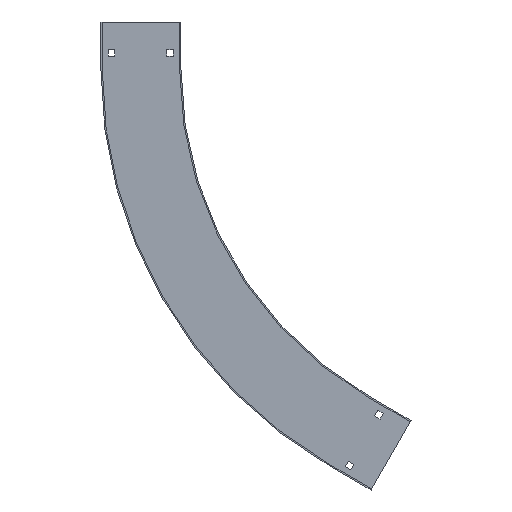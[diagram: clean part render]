
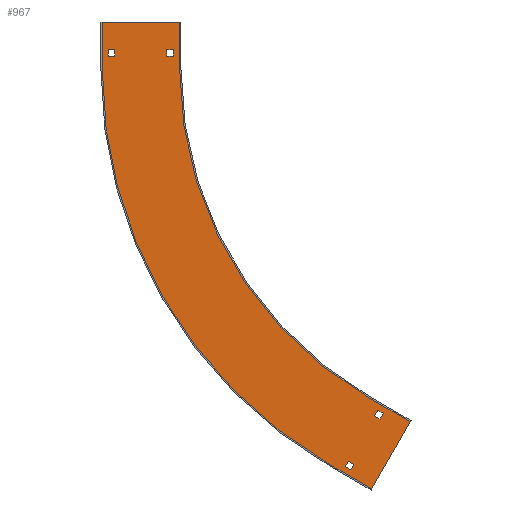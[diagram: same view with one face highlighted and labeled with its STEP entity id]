
A CAD part, left-side view. The second image highlights one B-rep face of the part: STEP entity #967.
In plain terms, the highlighted planar face has unit normal (-1, 0, 0) as drawn and (1, 0, 0) by its records, which use the part's own axes.
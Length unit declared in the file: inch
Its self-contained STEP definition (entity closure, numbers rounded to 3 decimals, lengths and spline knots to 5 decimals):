
#9=DIRECTION('',(0.,1.,0.));
#10=VECTOR('',#9,4.91);
#11=CARTESIAN_POINT('',(0.08,0.085,0.));
#12=LINE('',#11,#10);
#194=DIRECTION('',(0.,0.,1.));
#195=VECTOR('',#194,3.);
#196=CARTESIAN_POINT('',(0.08,4.995,0.));
#197=LINE('',#196,#195);
#198=DIRECTION('',(0.,0.,1.));
#199=VECTOR('',#198,3.);
#200=CARTESIAN_POINT('',(0.08,0.085,0.));
#201=LINE('',#200,#199);
#202=CARTESIAN_POINT('',(0.08,-24.,3.));
#203=DIRECTION('',(1.,0.,0.));
#204=DIRECTION('',(0.,1.,0.));
#205=AXIS2_PLACEMENT_3D('',#202,#203,#204);
#207=DIRECTION('',(0.,-0.866,0.5));
#208=VECTOR('',#207,3.);
#209=CARTESIAN_POINT('',(0.08,-11.9575,23.85822));
#210=LINE('',#209,#208);
#211=DIRECTION('',(0.,0.,1.));
#212=VECTOR('',#211,0.41);
#213=CARTESIAN_POINT('',(0.08,4.622,1.755));
#214=LINE('',#213,#212);
#215=DIRECTION('',(0.,-1.,0.));
#216=VECTOR('',#215,0.41);
#217=CARTESIAN_POINT('',(0.08,4.622,2.165));
#218=LINE('',#217,#216);
#219=DIRECTION('',(0.,0.,-1.));
#220=VECTOR('',#219,0.41);
#221=CARTESIAN_POINT('',(0.08,4.212,2.165));
#222=LINE('',#221,#220);
#223=DIRECTION('',(0.,1.,0.));
#224=VECTOR('',#223,0.41);
#225=CARTESIAN_POINT('',(0.08,4.212,1.755));
#226=LINE('',#225,#224);
#227=DIRECTION('',(0.,0.,1.));
#228=VECTOR('',#227,0.41);
#229=CARTESIAN_POINT('',(0.08,0.897,1.755));
#230=LINE('',#229,#228);
#231=DIRECTION('',(0.,-1.,0.));
#232=VECTOR('',#231,0.41);
#233=CARTESIAN_POINT('',(0.08,0.897,2.165));
#234=LINE('',#233,#232);
#235=DIRECTION('',(0.,0.,-1.));
#236=VECTOR('',#235,0.41);
#237=CARTESIAN_POINT('',(0.08,0.487,2.165));
#238=LINE('',#237,#236);
#239=DIRECTION('',(0.,1.,0.));
#240=VECTOR('',#239,0.41);
#241=CARTESIAN_POINT('',(0.08,0.487,1.755));
#242=LINE('',#241,#240);
#243=DIRECTION('',(0.,-0.5,-0.866));
#244=VECTOR('',#243,0.41);
#245=CARTESIAN_POINT('',(0.08,-10.7672,28.40988));
#246=LINE('',#245,#244);
#247=DIRECTION('',(0.,0.866,-0.5));
#248=VECTOR('',#247,0.41);
#249=CARTESIAN_POINT('',(0.08,-10.9722,28.05481));
#250=LINE('',#249,#248);
#251=DIRECTION('',(0.,0.5,0.866));
#252=VECTOR('',#251,0.41);
#253=CARTESIAN_POINT('',(0.08,-10.61713,27.84981));
#254=LINE('',#253,#252);
#255=DIRECTION('',(0.,-0.866,0.5));
#256=VECTOR('',#255,0.41);
#257=CARTESIAN_POINT('',(0.08,-10.41213,28.20488));
#258=LINE('',#257,#256);
#259=DIRECTION('',(0.,-0.5,-0.866));
#260=VECTOR('',#259,0.41);
#261=CARTESIAN_POINT('',(0.08,-12.6297,25.18393));
#262=LINE('',#261,#260);
#263=DIRECTION('',(0.,0.866,-0.5));
#264=VECTOR('',#263,0.41);
#265=CARTESIAN_POINT('',(0.08,-12.8347,24.82886));
#266=LINE('',#265,#264);
#267=DIRECTION('',(0.,0.5,0.866));
#268=VECTOR('',#267,0.41);
#269=CARTESIAN_POINT('',(0.08,-12.47963,24.62386));
#270=LINE('',#269,#268);
#271=DIRECTION('',(0.,-0.866,0.5));
#272=VECTOR('',#271,0.41);
#273=CARTESIAN_POINT('',(0.08,-12.27463,24.97893));
#274=LINE('',#273,#272);
#336=DIRECTION('',(0.,0.5,0.866));
#337=VECTOR('',#336,4.91);
#338=CARTESIAN_POINT('',(0.08,-14.55558,25.35822));
#339=LINE('',#338,#337);
#416=DIRECTION('',(0.,-0.866,0.5));
#417=VECTOR('',#416,3.);
#418=CARTESIAN_POINT('',(0.08,-9.5025,28.11041));
#419=LINE('',#418,#417);
#424=CARTESIAN_POINT('',(0.08,-24.,3.));
#425=DIRECTION('',(1.,0.,0.));
#426=DIRECTION('',(0.,1.,0.));
#427=AXIS2_PLACEMENT_3D('',#424,#425,#426);
#497=CARTESIAN_POINT('',(0.08,0.085,0.));
#498=VERTEX_POINT('',#497);
#499=CARTESIAN_POINT('',(0.08,4.995,0.));
#500=VERTEX_POINT('',#499);
#518=CARTESIAN_POINT('',(0.08,0.085,3.));
#520=VERTEX_POINT('',#518);
#521=CARTESIAN_POINT('',(0.08,4.995,3.));
#523=VERTEX_POINT('',#521);
#542=CARTESIAN_POINT('',(0.08,-11.9575,23.85822));
#544=VERTEX_POINT('',#542);
#545=CARTESIAN_POINT('',(0.08,-9.5025,28.11041));
#547=VERTEX_POINT('',#545);
#569=CARTESIAN_POINT('',(0.08,-14.55558,25.35822));
#570=VERTEX_POINT('',#569);
#571=CARTESIAN_POINT('',(0.08,-12.10058,29.61041));
#572=VERTEX_POINT('',#571);
#589=CARTESIAN_POINT('',(0.08,4.622,1.755));
#590=CARTESIAN_POINT('',(0.08,4.622,2.165));
#591=VERTEX_POINT('',#589);
#592=VERTEX_POINT('',#590);
#593=CARTESIAN_POINT('',(0.08,4.212,2.165));
#594=VERTEX_POINT('',#593);
#595=CARTESIAN_POINT('',(0.08,4.212,1.755));
#596=VERTEX_POINT('',#595);
#597=CARTESIAN_POINT('',(0.08,0.897,1.755));
#598=CARTESIAN_POINT('',(0.08,0.897,2.165));
#599=VERTEX_POINT('',#597);
#600=VERTEX_POINT('',#598);
#601=CARTESIAN_POINT('',(0.08,0.487,2.165));
#602=VERTEX_POINT('',#601);
#603=CARTESIAN_POINT('',(0.08,0.487,1.755));
#604=VERTEX_POINT('',#603);
#621=CARTESIAN_POINT('',(0.08,-10.7672,28.40988));
#622=CARTESIAN_POINT('',(0.08,-10.9722,28.05481));
#623=VERTEX_POINT('',#621);
#624=VERTEX_POINT('',#622);
#625=CARTESIAN_POINT('',(0.08,-10.61713,27.84981));
#626=VERTEX_POINT('',#625);
#627=CARTESIAN_POINT('',(0.08,-10.41213,28.20488));
#628=VERTEX_POINT('',#627);
#629=CARTESIAN_POINT('',(0.08,-12.6297,25.18393));
#630=CARTESIAN_POINT('',(0.08,-12.8347,24.82886));
#631=VERTEX_POINT('',#629);
#632=VERTEX_POINT('',#630);
#633=CARTESIAN_POINT('',(0.08,-12.47963,24.62386));
#634=VERTEX_POINT('',#633);
#635=CARTESIAN_POINT('',(0.08,-12.27463,24.97893));
#636=VERTEX_POINT('',#635);
#906=CARTESIAN_POINT('',(0.08,0.085,0.));
#907=DIRECTION('',(1.,0.,0.));
#908=DIRECTION('',(0.,1.,0.));
#909=AXIS2_PLACEMENT_3D('',#906,#907,#908);
#910=PLANE('',#909);
#911=ORIENTED_EDGE('',*,*,#662,.F.);
#913=ORIENTED_EDGE('',*,*,#912,.T.);
#915=ORIENTED_EDGE('',*,*,#914,.T.);
#917=ORIENTED_EDGE('',*,*,#916,.T.);
#919=ORIENTED_EDGE('',*,*,#918,.T.);
#921=ORIENTED_EDGE('',*,*,#920,.F.);
#923=ORIENTED_EDGE('',*,*,#922,.F.);
#924=ORIENTED_EDGE('',*,*,#898,.F.);
#925=EDGE_LOOP('',(#911,#913,#915,#917,#919,#921,#923,#924));
#926=FACE_OUTER_BOUND('',#925,.F.);
#928=ORIENTED_EDGE('',*,*,#927,.T.);
#930=ORIENTED_EDGE('',*,*,#929,.T.);
#932=ORIENTED_EDGE('',*,*,#931,.T.);
#934=ORIENTED_EDGE('',*,*,#933,.T.);
#935=EDGE_LOOP('',(#928,#930,#932,#934));
#936=FACE_BOUND('',#935,.F.);
#938=ORIENTED_EDGE('',*,*,#937,.T.);
#940=ORIENTED_EDGE('',*,*,#939,.T.);
#942=ORIENTED_EDGE('',*,*,#941,.T.);
#944=ORIENTED_EDGE('',*,*,#943,.T.);
#945=EDGE_LOOP('',(#938,#940,#942,#944));
#946=FACE_BOUND('',#945,.F.);
#948=ORIENTED_EDGE('',*,*,#947,.T.);
#950=ORIENTED_EDGE('',*,*,#949,.T.);
#952=ORIENTED_EDGE('',*,*,#951,.T.);
#954=ORIENTED_EDGE('',*,*,#953,.T.);
#955=EDGE_LOOP('',(#948,#950,#952,#954));
#956=FACE_BOUND('',#955,.F.);
#958=ORIENTED_EDGE('',*,*,#957,.T.);
#960=ORIENTED_EDGE('',*,*,#959,.T.);
#962=ORIENTED_EDGE('',*,*,#961,.T.);
#964=ORIENTED_EDGE('',*,*,#963,.T.);
#965=EDGE_LOOP('',(#958,#960,#962,#964));
#966=FACE_BOUND('',#965,.F.);
#967=ADVANCED_FACE('',(#926,#936,#946,#956,#966),#910,.T.);
#206=CIRCLE('',#205,24.085);
#428=CIRCLE('',#427,28.995);
#662=EDGE_CURVE('',#498,#500,#12,.T.);
#898=EDGE_CURVE('',#500,#523,#197,.T.);
#912=EDGE_CURVE('',#498,#520,#201,.T.);
#914=EDGE_CURVE('',#520,#544,#206,.T.);
#916=EDGE_CURVE('',#544,#570,#210,.T.);
#918=EDGE_CURVE('',#570,#572,#339,.T.);
#920=EDGE_CURVE('',#547,#572,#419,.T.);
#922=EDGE_CURVE('',#523,#547,#428,.T.);
#927=EDGE_CURVE('',#591,#592,#214,.T.);
#929=EDGE_CURVE('',#592,#594,#218,.T.);
#931=EDGE_CURVE('',#594,#596,#222,.T.);
#933=EDGE_CURVE('',#596,#591,#226,.T.);
#937=EDGE_CURVE('',#599,#600,#230,.T.);
#939=EDGE_CURVE('',#600,#602,#234,.T.);
#941=EDGE_CURVE('',#602,#604,#238,.T.);
#943=EDGE_CURVE('',#604,#599,#242,.T.);
#947=EDGE_CURVE('',#623,#624,#246,.T.);
#949=EDGE_CURVE('',#624,#626,#250,.T.);
#951=EDGE_CURVE('',#626,#628,#254,.T.);
#953=EDGE_CURVE('',#628,#623,#258,.T.);
#957=EDGE_CURVE('',#631,#632,#262,.T.);
#959=EDGE_CURVE('',#632,#634,#266,.T.);
#961=EDGE_CURVE('',#634,#636,#270,.T.);
#963=EDGE_CURVE('',#636,#631,#274,.T.);
